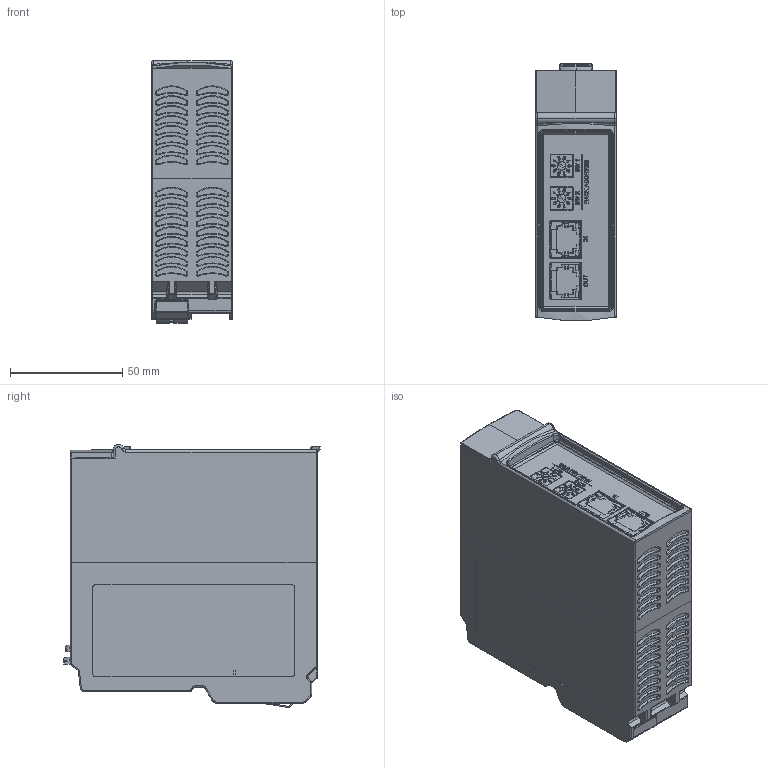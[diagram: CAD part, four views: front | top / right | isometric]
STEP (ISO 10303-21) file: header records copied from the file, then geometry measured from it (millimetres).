
FILE_DESCRIPTION (( 'STEP AP214' ), '1' );
FILE_NAME ('NX4000_20130708.STEP', '2013-07-08T20:13:00', ( 'ALTUS' ), ( '' ), 'SwSTEP 2.0', 'SolidWorks 2011', '' );
FILE_SCHEMA (( 'AUTOMOTIVE_DESIGN' ));
Length unit declared in the file: millimetre
Products named in the file (1): NX4000_20130708
Bounding box: 36 x 114.46 x 117.09 mm (x, y, z)
Volume: 409643.7 mm3; surface area: 69730.3 mm2
Topology: 13 solids, 15 shells, 2555 faces, 6759 edges, 4374 vertices
Faces by surface type: plane 967, bspline 757, cylinder 391, torus 230, cone 200, sphere 10
Entity records: 129198 total; most frequent: CARTESIAN_POINT 43777, ORIENTED_EDGE 13480, DIRECTION 9765, EDGE_CURVE 6740, VERTEX_POINT 4372, AXIS2_PLACEMENT_3D 3472, LINE 2821, VECTOR 2821
